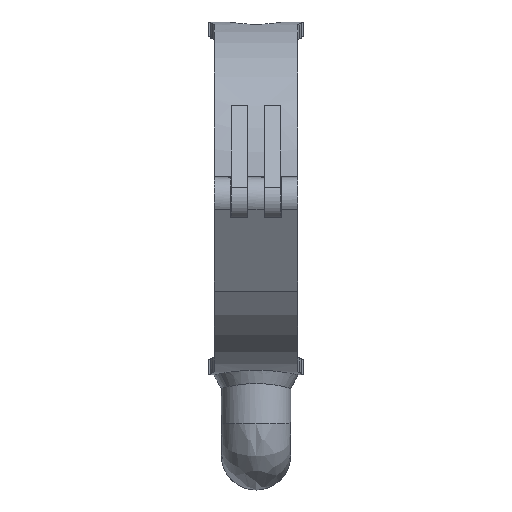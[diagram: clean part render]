
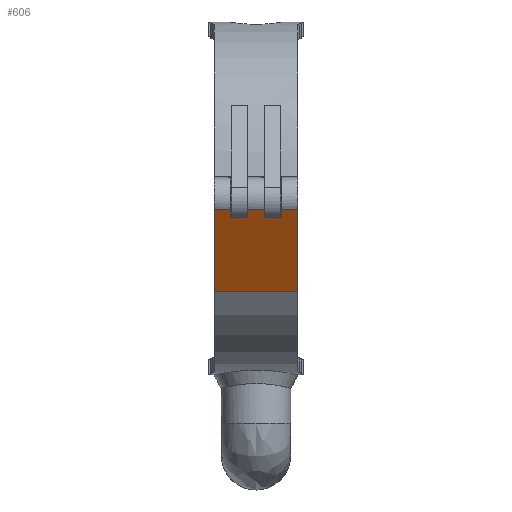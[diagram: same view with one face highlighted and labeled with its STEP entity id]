
A CAD part, front view. The second image highlights one B-rep face of the part: STEP entity #606.
In plain terms, the highlighted planar face has unit normal (0, -0.851, -0.526).
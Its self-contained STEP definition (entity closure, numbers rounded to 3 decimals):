
#450=PLANE('',#6225);
#606=ADVANCED_FACE('',(#1060),#450,.T.);
#1060=FACE_OUTER_BOUND('',#1371,.T.);
#1371=EDGE_LOOP('',(#2536,#2537,#2538,#2539,#2540,#2541,#2542,#2543,#2544,
#2545,#2546,#2547));
#1754=LINE('',#8462,#2142);
#1755=LINE('',#8464,#2143);
#1756=LINE('',#8467,#2144);
#1757=LINE('',#8469,#2145);
#1758=LINE('',#8471,#2146);
#1759=LINE('',#8473,#2147);
#1760=LINE('',#8475,#2148);
#1761=LINE('',#8477,#2149);
#1762=LINE('',#8478,#2150);
#1763=LINE('',#8480,#2151);
#1764=LINE('',#8482,#2152);
#1765=LINE('',#8484,#2153);
#2142=VECTOR('',#6845,1.);
#2143=VECTOR('',#6848,1.);
#2144=VECTOR('',#6849,1.);
#2145=VECTOR('',#6850,1.);
#2146=VECTOR('',#6851,1.);
#2147=VECTOR('',#6852,1.);
#2148=VECTOR('',#6853,1.);
#2149=VECTOR('',#6854,1.);
#2150=VECTOR('',#6855,1.);
#2151=VECTOR('',#6856,1.);
#2152=VECTOR('',#6857,1.);
#2153=VECTOR('',#6858,1.);
#2536=ORIENTED_EDGE('',*,*,#4989,.F.);
#2537=ORIENTED_EDGE('',*,*,#4990,.F.);
#2538=ORIENTED_EDGE('',*,*,#4991,.F.);
#2539=ORIENTED_EDGE('',*,*,#4992,.F.);
#2540=ORIENTED_EDGE('',*,*,#4993,.F.);
#2541=ORIENTED_EDGE('',*,*,#4994,.F.);
#2542=ORIENTED_EDGE('',*,*,#4995,.F.);
#2543=ORIENTED_EDGE('',*,*,#4988,.F.);
#2544=ORIENTED_EDGE('',*,*,#4996,.F.);
#2545=ORIENTED_EDGE('',*,*,#4997,.F.);
#2546=ORIENTED_EDGE('',*,*,#4998,.F.);
#2547=ORIENTED_EDGE('',*,*,#4999,.F.);
#4366=VERTEX_POINT('',#8451);
#4371=VERTEX_POINT('',#8461);
#4372=VERTEX_POINT('',#8465);
#4373=VERTEX_POINT('',#8466);
#4374=VERTEX_POINT('',#8468);
#4375=VERTEX_POINT('',#8470);
#4376=VERTEX_POINT('',#8472);
#4377=VERTEX_POINT('',#8474);
#4378=VERTEX_POINT('',#8476);
#4379=VERTEX_POINT('',#8479);
#4380=VERTEX_POINT('',#8481);
#4381=VERTEX_POINT('',#8483);
#4988=EDGE_CURVE('',#4371,#4366,#1754,.T.);
#4989=EDGE_CURVE('',#4372,#4373,#1755,.T.);
#4990=EDGE_CURVE('',#4374,#4372,#1756,.T.);
#4991=EDGE_CURVE('',#4375,#4374,#1757,.T.);
#4992=EDGE_CURVE('',#4376,#4375,#1758,.T.);
#4993=EDGE_CURVE('',#4377,#4376,#1759,.T.);
#4994=EDGE_CURVE('',#4378,#4377,#1760,.T.);
#4995=EDGE_CURVE('',#4366,#4378,#1761,.T.);
#4996=EDGE_CURVE('',#4379,#4371,#1762,.T.);
#4997=EDGE_CURVE('',#4380,#4379,#1763,.T.);
#4998=EDGE_CURVE('',#4381,#4380,#1764,.T.);
#4999=EDGE_CURVE('',#4373,#4381,#1765,.T.);
#6225=AXIS2_PLACEMENT_3D('',#8485,#6859,#6860);
#6845=DIRECTION('',(1.,0.,0.));
#6848=DIRECTION('',(0.,-0.526,0.851));
#6849=DIRECTION('',(1.,0.,0.));
#6850=DIRECTION('',(0.,0.526,-0.851));
#6851=DIRECTION('',(1.,0.,0.));
#6852=DIRECTION('',(0.,-0.526,0.851));
#6853=DIRECTION('',(1.,0.,0.));
#6854=DIRECTION('',(0.,0.526,-0.851));
#6855=DIRECTION('',(0.,-0.526,0.851));
#6856=DIRECTION('',(-1.,0.,0.));
#6857=DIRECTION('',(0.,0.526,-0.851));
#6858=DIRECTION('',(1.,0.,0.));
#6859=DIRECTION('',(0.,-0.851,-0.526));
#6860=DIRECTION('',(0.,-0.526,0.851));
#8451=CARTESIAN_POINT('',(-12.15,-95.506,-5.259));
#8461=CARTESIAN_POINT('',(-20.,-95.506,-5.259));
#8462=CARTESIAN_POINT('',(-20.,-95.506,-5.259));
#8464=CARTESIAN_POINT('',(12.15,-93.096,-9.156));
#8465=CARTESIAN_POINT('',(12.15,-93.096,-9.156));
#8466=CARTESIAN_POINT('',(12.15,-95.506,-5.259));
#8467=CARTESIAN_POINT('',(3.85,-93.096,-9.156));
#8468=CARTESIAN_POINT('',(3.85,-93.096,-9.156));
#8469=CARTESIAN_POINT('',(3.85,-95.506,-5.259));
#8470=CARTESIAN_POINT('',(3.85,-95.506,-5.259));
#8471=CARTESIAN_POINT('',(-3.85,-95.506,-5.259));
#8472=CARTESIAN_POINT('',(-3.85,-95.506,-5.259));
#8473=CARTESIAN_POINT('',(-3.85,-93.096,-9.156));
#8474=CARTESIAN_POINT('',(-3.85,-93.096,-9.156));
#8475=CARTESIAN_POINT('',(-12.15,-93.096,-9.156));
#8476=CARTESIAN_POINT('',(-12.15,-93.096,-9.156));
#8477=CARTESIAN_POINT('',(-12.15,-95.506,-5.259));
#8478=CARTESIAN_POINT('',(-20.,-71.448,-44.172));
#8479=CARTESIAN_POINT('',(-20.,-71.448,-44.172));
#8480=CARTESIAN_POINT('',(20.,-71.448,-44.172));
#8481=CARTESIAN_POINT('',(20.,-71.448,-44.172));
#8482=CARTESIAN_POINT('',(20.,-95.506,-5.259));
#8483=CARTESIAN_POINT('',(20.,-95.506,-5.259));
#8484=CARTESIAN_POINT('',(12.15,-95.506,-5.259));
#8485=CARTESIAN_POINT('',(20.,-95.506,-5.259));
